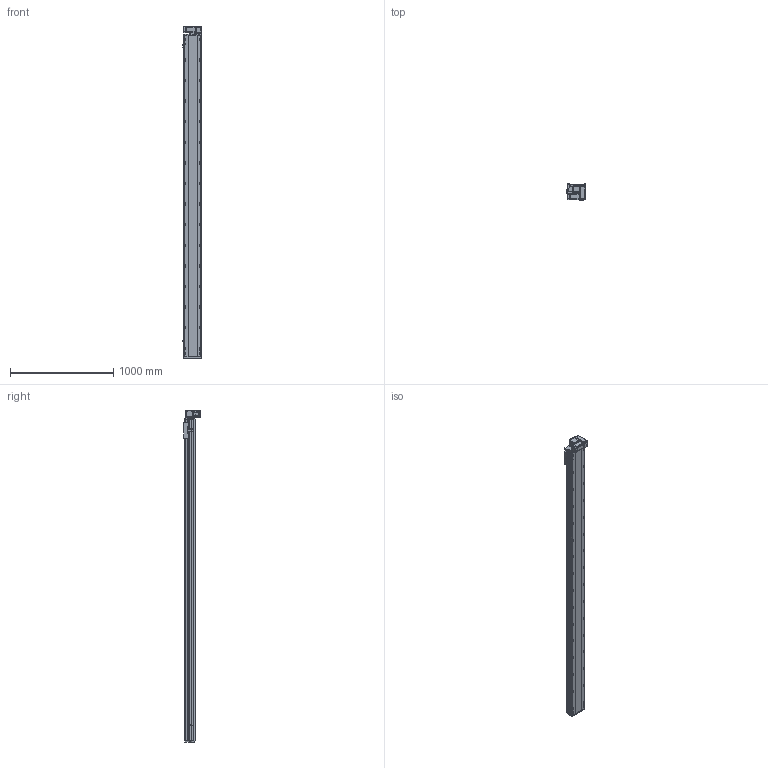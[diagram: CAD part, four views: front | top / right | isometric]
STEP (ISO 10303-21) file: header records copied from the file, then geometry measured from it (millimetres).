
FILE_DESCRIPTION (( 'STEP AP214' ), '1' );
FILE_NAME ('RTB17S-XX-2850-RM-M40-C4.STEP', '2025-12-11T08:33:46', ( '' ), ( '' ), 'SwSTEP 2.0', 'SolidWorks 2018', '' );
FILE_SCHEMA (( 'AUTOMOTIVE_DESIGN' ));
Length unit declared in the file: millimetre
Products named in the file (14): OMRON EE-SX672 传感器^RTB17S-XX-XX-RM-M40-C4; RTB17S-L-007奻裔^RTB17S-XX-XX-RM-M40-C4; 400W侜督萇儂^RTB17S-XX-XX-RM-M40-C4; RTB17-R-011菁釱^RTB17S-XX-XX-RM-M40-C4; RTB17S-L-001耜醱啣^RTB17S-XX-XX-RM-M40-C4; RTB14-L-008-M20--萇儂啣^RTB17S-RM-々湍釱蚾饜-400W_RTB17S-XX-XX-RM-M40-C4; RTB14-L-018P^RTB17S-RM-々湍釱蚾饜-400W_RTB17S-XX-XX-RM-M40-C4; RTB17S-XX-2850-RM-M40-C4; RTB14-L-005P--轴承塑胶压盖^RTB17S-RM-皮带座装配-400W_RTB17S-XX-XX-RM-M40-C4; RTH13-BL-012覜茼え俋离^RTB17S-XX-XX-RM-M40-C4; RTB17S-L-014-T20--々湍釱^RTB17S-RM-々湍釱蚾饜-400W_RTB17S-XX-XX-RM-M40-C4; RTB14-L-017P^RTB17S-RM-々湍釱蚾饜-400W_RTB17S-XX-XX-RM-M40-C4; RTB17S-L-004佪裝蹟譫蟀諉釱^RTB17S-XX-XX-RM-M40-C4; RTB17S-RM-々湍釱蚾饜-400W^RTB17S-XX-XX-RM-M40-C4
Assembly tree (16 placements, depth 3):
  RTB17S-XX-2850-RM-M40-C4
    RTB17-R-011菁釱^RTB17S-XX-XX-RM-M40-C4
    RTB17S-L-007奻裔^RTB17S-XX-XX-RM-M40-C4
    OMRON EE-SX672 传感器^RTB17S-XX-XX-RM-M40-C4  x3
    RTB17S-L-001耜醱啣^RTB17S-XX-XX-RM-M40-C4
    400W侜督萇儂^RTB17S-XX-XX-RM-M40-C4
    RTB17S-L-004佪裝蹟譫蟀諉釱^RTB17S-XX-XX-RM-M40-C4
    RTH13-BL-012覜茼え俋离^RTB17S-XX-XX-RM-M40-C4
    RTB17S-RM-々湍釱蚾饜-400W^RTB17S-XX-XX-RM-M40-C4
      RTB17S-L-014-T20--々湍釱^RTB17S-RM-々湍釱蚾饜-400W_RTB17S-XX-XX-RM-M40-C4
      RTB14-L-005P--轴承塑胶压盖^RTB17S-RM-皮带座装配-400W_RTB17S-XX-XX-RM-M40-C4
      RTB14-L-008-M20--萇儂啣^RTB17S-RM-々湍釱蚾饜-400W_RTB17S-XX-XX-RM-M40-C4
      RTB14-L-017P^RTB17S-RM-々湍釱蚾饜-400W_RTB17S-XX-XX-RM-M40-C4  x2
      RTB14-L-018P^RTB17S-RM-々湍釱蚾饜-400W_RTB17S-XX-XX-RM-M40-C4
Bounding box: 183.5 x 156.5 x 3222.5 mm (x, y, z)
Volume: 27455697.1 mm3; surface area: 3145052.5 mm2
Topology: 15 solids, 15 shells, 2365 faces, 6627 edges, 4329 vertices
Faces by surface type: plane 1088, cylinder 829, bspline 301, cone 139, torus 8
Entity records: 70313 total; most frequent: CARTESIAN_POINT 20032, ORIENTED_EDGE 10098, DIRECTION 9296, EDGE_CURVE 5049, VERTEX_POINT 3317, AXIS2_PLACEMENT_3D 3247, LINE 2802, VECTOR 2802
